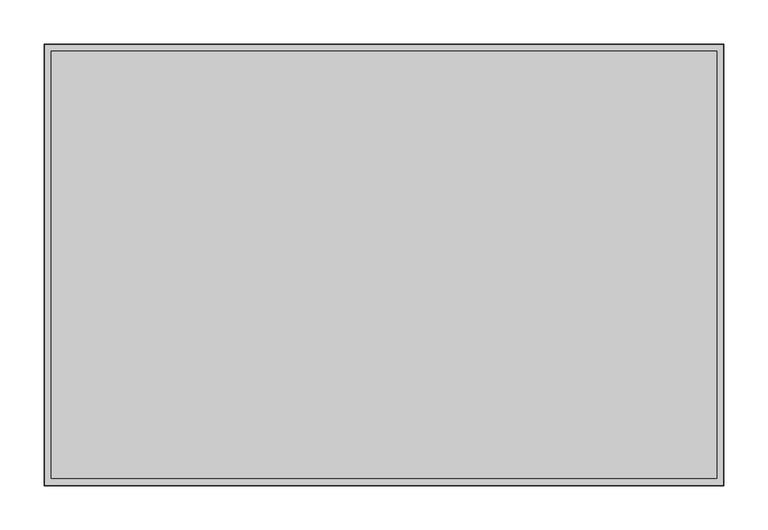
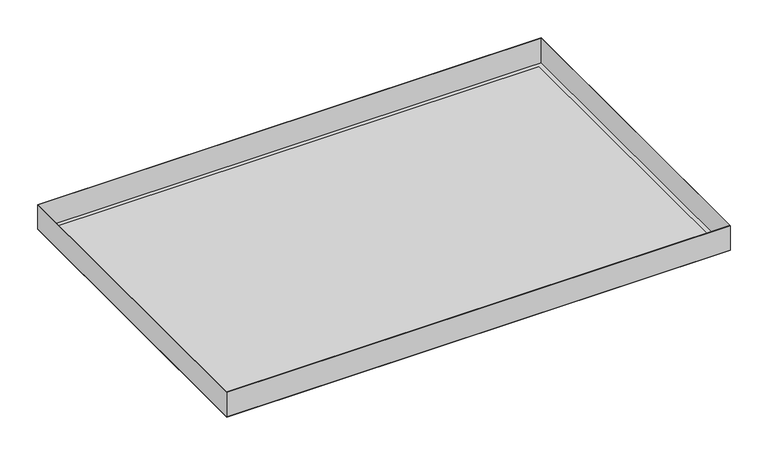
"""IFC4 building model written with IfcOpenShell, lengths in millimetres: proxy geometry, durlum_S-OM-63 : durlum_S-OM-63_panel_wall_corner."""

import ifcopenshell
import ifcopenshell.guid

model = None  # the IFC model being written
_history = None  # IfcOwnerHistory: only IFC2X3 demands one
_inside = {}  # id of a spatial element -> (the spatial element, [elements in it])
_under = {}  # id of a project, library or spatial element -> (it, [spatial elements below it])
_declared = {}  # id of a project -> (the project, [libraries it declares])
_typed = {}  # id of a type object -> (the type object, [elements of that type])
_made_of = {}  # id of a material, layer set ... -> (it, [elements and type objects made of it])


def new_model(schema):
    """Start an empty IFC model of exactly this schema.

    Asked for "IFC4X3", IfcOpenShell would pick the latest addendum, in which some entities
    have other attributes; the version numbers below select the first issue.
    IFC2X3 requires an IfcOwnerHistory on every rooted entity: one is made here for all.
    """
    global model, _history
    if schema == "IFC4X3":
        model = ifcopenshell.file(schema_version=(4, 3, 0, 0))
    else:
        model = ifcopenshell.file(schema=schema)
    _inside.clear()
    _under.clear()
    _declared.clear()
    _typed.clear()
    _made_of.clear()
    _history = None
    if model.schema == "IFC2X3":
        org = make("IfcOrganization", Name="unknown")
        user = make(
            "IfcPersonAndOrganization",
            ThePerson=make("IfcPerson", FamilyName="unknown"),
            TheOrganization=org,
        )
        app = make(
            "IfcApplication",
            ApplicationDeveloper=org,
            Version="unknown",
            ApplicationFullName="unknown",
            ApplicationIdentifier="unknown",
        )
        _history = make(
            "IfcOwnerHistory",
            OwningUser=user,
            OwningApplication=app,
            ChangeAction="ADDED",
            CreationDate=0,
        )
    return model


def make(cls, **values):
    """One entity of the class cls with the attributes given. An attribute that is None is left unset."""
    return model.create_entity(
        cls, **{name: value for name, value in values.items() if value is not None}
    )


def rooted(cls, **values):
    """An entity with a GlobalId (a new one), such as an element, a storey or a relation."""
    return make(cls, GlobalId=ifcopenshell.guid.new(), OwnerHistory=_history, **values)


def si_unit(unit_type, name, prefix=None):
    """IfcSIUnit, for example si_unit("LENGTHUNIT", "METRE", prefix="MILLI")."""
    return make("IfcSIUnit", UnitType=unit_type, Prefix=prefix, Name=name)


def assignment(units):
    """IfcUnitAssignment: the units of a project."""
    return None if units is None else make("IfcUnitAssignment", Units=units)


def point(xyz):
    """IfcCartesianPoint."""
    return None if xyz is None else make("IfcCartesianPoint", Coordinates=xyz)


def direction(xyz):
    """IfcDirection."""
    return None if xyz is None else make("IfcDirection", DirectionRatios=xyz)


def frame(location, z_axis=None, x_axis=None):
    """IfcAxis2Placement3D, a coordinate frame: its origin and axes. An axis left out is left unset."""
    return make(
        "IfcAxis2Placement3D",
        Location=point(location),
        Axis=direction(z_axis),
        RefDirection=direction(x_axis),
    )


def origin():
    """The frame at (0, 0, 0) with its axes left unset."""
    return frame((0.0, 0.0, 0.0))


def origin_with_axes():
    """The frame at (0, 0, 0) with the z axis (0, 0, 1) and the x axis (1, 0, 0) written out."""
    return frame((0.0, 0.0, 0.0), z_axis=(0.0, 0.0, 1.0), x_axis=(1.0, 0.0, 0.0))


def place(relative_to, where):
    """IfcLocalPlacement: puts the frame where relative to a parent placement (None: the world)."""
    return make(
        "IfcLocalPlacement", PlacementRelTo=relative_to, RelativePlacement=where
    )


def context(
    kind, dimensions, precision=None, world=None, true_north=None, identifier=None
):
    """IfcGeometricRepresentationContext, for example the 3D "Model" context."""
    return make(
        "IfcGeometricRepresentationContext",
        ContextIdentifier=identifier,
        ContextType=kind,
        CoordinateSpaceDimension=dimensions,
        Precision=precision,
        WorldCoordinateSystem=world,
        TrueNorth=true_north,
    )


def project(units=None, contexts=None):
    """IfcProject with its units and contexts."""
    return rooted(
        "IfcProject",
        Name="project",
        RepresentationContexts=contexts,
        UnitsInContext=assignment(units),
    )


def spatial(cls, under=None, at=None, **own):
    """A site, building, storey or space (cls), placed at a placement, below another one or the project."""
    s = rooted(cls, ObjectPlacement=at, **own)
    if under is not None:
        _under.setdefault(under.id(), (under, []))[1].append(s)
    return s


def polyline(points):
    """IfcPolyline through the points."""
    return make("IfcPolyline", Points=[point(p) for p in points])


def outline(outer, holes=None, kind="AREA"):
    """IfcArbitraryClosedProfileDef: a profile drawn as a closed curve; with holes, ...WithVoids."""
    if holes is None:
        return make("IfcArbitraryClosedProfileDef", ProfileType=kind, OuterCurve=outer)
    return make(
        "IfcArbitraryProfileDefWithVoids",
        ProfileType=kind,
        OuterCurve=outer,
        InnerCurves=holes,
    )


def extrude(swept, where, along, depth):
    """IfcExtrudedAreaSolid: the profile swept, set in the frame where, extruded along a direction by depth."""
    return make(
        "IfcExtrudedAreaSolid",
        SweptArea=swept,
        Position=where,
        ExtrudedDirection=direction(along),
        Depth=depth,
    )


def shape(context_of_items, identifier, shape_type, items):
    """IfcShapeRepresentation: the items that make up one representation, for example the "Body"."""
    return make(
        "IfcShapeRepresentation",
        ContextOfItems=context_of_items,
        RepresentationIdentifier=identifier,
        RepresentationType=shape_type,
        Items=items,
    )


def source(mapping_origin, context_of_items, identifier, shape_type, items):
    """IfcRepresentationMap: a shape defined once, which mapped items show again and again."""
    return make(
        "IfcRepresentationMap",
        MappingOrigin=mapping_origin,
        MappedRepresentation=shape(context_of_items, identifier, shape_type, items),
    )


def transform(
    local_origin,
    x_axis=None,
    y_axis=None,
    z_axis=None,
    scale=None,
    scale2=None,
    scale3=None,
    uniform=True,
):
    """IfcCartesianTransformationOperator3D, or its non-uniform kind. x_axis, y_axis, z_axis: its Axis1, 2, 3."""
    if uniform:
        return make(
            "IfcCartesianTransformationOperator3D",
            Axis1=direction(x_axis),
            Axis2=direction(y_axis),
            LocalOrigin=point(local_origin),
            Scale=scale,
            Axis3=direction(z_axis),
        )
    return make(
        "IfcCartesianTransformationOperator3DnonUniform",
        Axis1=direction(x_axis),
        Axis2=direction(y_axis),
        LocalOrigin=point(local_origin),
        Scale=scale,
        Axis3=direction(z_axis),
        Scale2=scale2,
        Scale3=scale3,
    )


def mapped(mapping_source, mapping_target):
    """IfcMappedItem: shows the shape of a source again, moved by a transform."""
    return make(
        "IfcMappedItem", MappingSource=mapping_source, MappingTarget=mapping_target
    )


def made_of(thing, what):
    """Note that an element or type object is made of a material, layer set ...; save() writes the relation."""
    if what is not None:
        _made_of.setdefault(what.id(), (what, []))[1].append(thing)
    return thing


def element(
    cls,
    number,
    at=None,
    inside=None,
    cuts=None,
    type_object=None,
    material=None,
    context=None,
    identifier="Body",
    shape_type=None,
    held_by="IfcProductDefinitionShape",
    body=None,
    shapes=None,
    **own,
):
    """One element of the class cls, such as IfcWall. Its Tag is "e" and its number.

    at: its placement. inside: the storey or other place that contains it. cuts: it is an
    opening in that element (IfcRelVoidsElement). A single representation is given by context,
    identifier, shape_type and body (its items); several are given by shapes. held_by: the class
    of the entity that holds the representations. save() writes the other relations.
    """
    e = rooted(cls, Tag="e%d" % number, ObjectPlacement=at, **own)
    if body is not None:
        shapes = [shape(context, identifier, shape_type, body)]
    if shapes is not None:
        e.Representation = make(held_by, Representations=shapes)
    if inside is not None:
        _inside.setdefault(inside.id(), (inside, []))[1].append(e)
    if cuts is not None:
        rooted(
            "IfcRelVoidsElement", RelatingBuildingElement=cuts, RelatedOpeningElement=e
        )
    if type_object is not None:
        _typed.setdefault(type_object.id(), (type_object, []))[1].append(e)
    return made_of(e, material)


def aggregate(whole, parts):
    """IfcRelAggregates: a whole, such as a stair, and the parts it consists of."""
    return rooted("IfcRelAggregates", RelatingObject=whole, RelatedObjects=parts)


def save(model, path):
    """Write the relations noted so far, then the file.

    IfcRelAggregates (storeys below a building ...), IfcRelContainedInSpatialStructure (elements
    in a storey), IfcRelDefinesByType, IfcRelAssociatesMaterial and IfcRelDeclares: one each for
    every whole, place, type object, material and project.
    """
    for whole, parts in _under.values():
        aggregate(whole, parts)
    for where, things in _inside.values():
        rooted(
            "IfcRelContainedInSpatialStructure",
            RelatedElements=things,
            RelatingStructure=where,
        )
    for kind, things in _typed.values():
        rooted("IfcRelDefinesByType", RelatedObjects=things, RelatingType=kind)
    for what, things in _made_of.values():
        rooted("IfcRelAssociatesMaterial", RelatedObjects=things, RelatingMaterial=what)
    for by, libraries in _declared.values():
        rooted("IfcRelDeclares", RelatingContext=by, RelatedDefinitions=libraries)
    model.write(path)


def generic_models_073f8bfa(model_context):
    return source(origin(), model_context, "Body", "SweptSolid", [
        extrude(outline(polyline([(383.725, 249.5), (383.725, -249.5), (-383.725, -249.5), (-383.725, 249.5), (383.725, 249.5)]), holes=[polyline([(383.125, 248.9), (-383.125, 248.9), (-383.125, -248.9), (383.125, -248.9), (383.125, 248.9)])]), frame((0.0, 0.0, 0.6), z_axis=(0.0, 0.0, 1.0), x_axis=(1.0, 0.0, 0.0)), (0.0, 0.0, 1.0), 39.4),
        extrude(outline(polyline([(375.725, 241.5), (375.725, -241.5), (-375.725, -241.5), (-375.725, 241.5), (375.725, 241.5)])), frame((0.0, 0.0, 0.6), z_axis=(0.0, 0.0, 1.0), x_axis=(1.0, 0.0, 0.0)), (0.0, 0.0, 1.0), 0.6),
        extrude(outline(polyline([(383.725, 249.5), (383.725, -249.5), (-383.725, -249.5), (-383.725, 249.5), (383.725, 249.5)]), holes=[polyline([(375.725, 241.5), (-375.725, 241.5), (-375.725, -241.5), (375.725, -241.5), (375.725, 241.5)])]), origin_with_axes(), (0.0, 0.0, 1.0), 0.6),
        extrude(outline(polyline([(375.725, 241.5), (375.725, -241.5), (-375.725, -241.5), (-375.725, 241.5), (375.725, 241.5)])), origin_with_axes(), (0.0, 0.0, 1.0), 0.6),
    ])


if __name__ == "__main__":
    model = new_model("IFC4")
    model_context = context("Model", 3, world=origin())
    ifc_project = project(units=[si_unit("LENGTHUNIT", "METRE", prefix="MILLI")], contexts=[model_context])
    site = spatial("IfcSite", under=ifc_project)
    building = spatial("IfcBuilding", under=site)
    placement = place(None, origin())
    generic_models_shape = generic_models_073f8bfa(model_context)
    element("IfcBuildingElementProxy", 1, Name="durlum_S-OM-63 : durlum_S-OM-63_panel_wall_corner", ObjectType="durlum_S-OM-63 : durlum_S-OM-63_panel_wall_corner", at=placement, inside=building, context=model_context, shape_type="MappedRepresentation", body=[
        mapped(generic_models_shape, transform((0.0, 0.0, 0.0), x_axis=(1.0, 0.0, 0.0), y_axis=(0.0, 1.0, 0.0), z_axis=(0.0, 0.0, 1.0))),
    ])
    save(model, "model.ifc")
